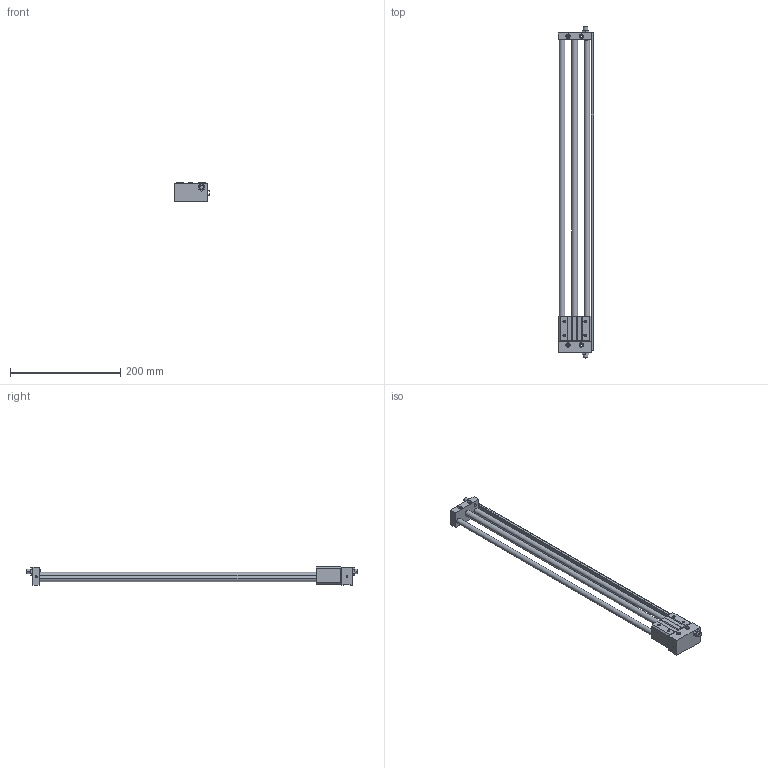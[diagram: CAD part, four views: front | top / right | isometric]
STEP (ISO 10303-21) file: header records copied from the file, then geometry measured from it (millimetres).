
FILE_DESCRIPTION((''),'2;1');
FILE_NAME('C:\Documents and Settings\Administrator\桌面\GYS\GYS10\GYSR10X500.stp','2012-03-05T10:10:32',('Administrator'),(''),'Autodesk Inventor 8','Autodesk Inventor 8','');
FILE_SCHEMA(('AUTOMOTIVE_DESIGN { 1 0 10303 214 1 1 1 1 }'));
Length unit declared in the file: millimetre
Products named in the file (3): GYSR10X500; GYS10X500; GYS10160X500
Assembly tree (2 placements, depth 2):
  GYSR10X500
    GYS10X500
    GYS10160X500
Bounding box: 65 x 602 x 34 mm (x, y, z)
Volume: 280552.7 mm3; surface area: 99271.3 mm2
Topology: 2 solids, 2 shells, 193 faces, 462 edges, 296 vertices
Faces by surface type: plane 97, cylinder 58, cone 32, bspline 6
Entity records: 5756 total; most frequent: CARTESIAN_POINT 1030, DIRECTION 1006, ORIENTED_EDGE 924, EDGE_CURVE 462, AXIS2_PLACEMENT_3D 352, VECTOR 302, LINE 302, VERTEX_POINT 296
